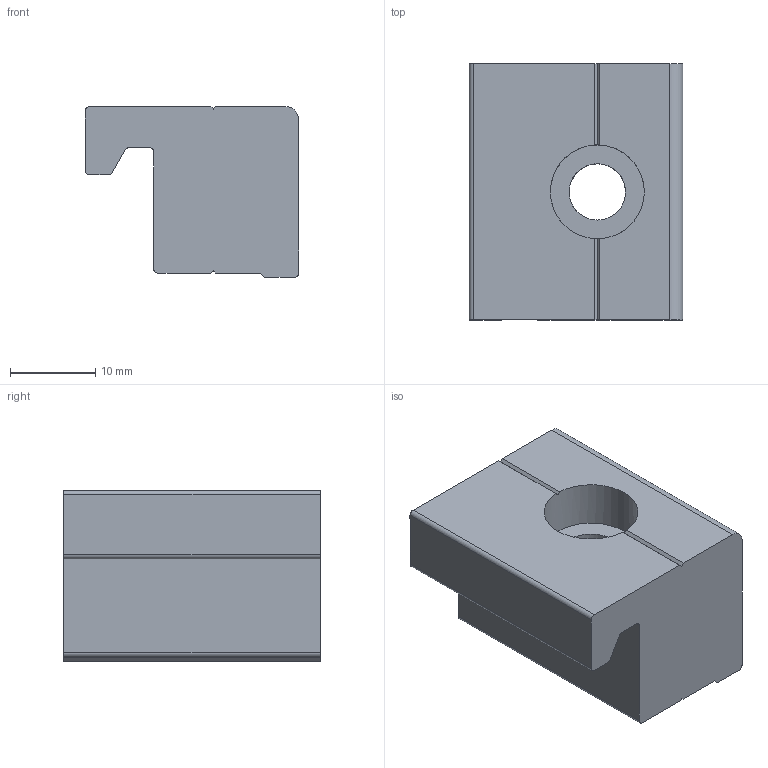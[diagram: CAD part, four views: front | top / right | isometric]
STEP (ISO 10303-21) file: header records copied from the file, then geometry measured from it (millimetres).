
FILE_DESCRIPTION(('STEP AP214'),'1');
FILE_NAME('SL4H-L30.stp','2017-07-26T07:27:48',(' '),(' '),'Spatial InterOp 3D',' ',' ');
FILE_SCHEMA(('automotive_design'));
Length unit declared in the file: millimetre
Products named in the file (1): SL4H-L30
Bounding box: 25 x 30 x 20 mm (x, y, z)
Volume: 10512.7 mm3; surface area: 3977.5 mm2
Topology: 1 solids, 1 shells, 33 faces, 94 edges, 62 vertices
Faces by surface type: plane 23, cylinder 10
Full cylindrical faces by diameter (mm): 6.6 x1, 11 x1
Entity records: 1356 total; most frequent: DIRECTION 190, CARTESIAN_POINT 188, ORIENTED_EDGE 184, EDGE_CURVE 92, AXIS2_PLACEMENT_3D 64, VERTEX_POINT 62, LINE 62, VECTOR 62
